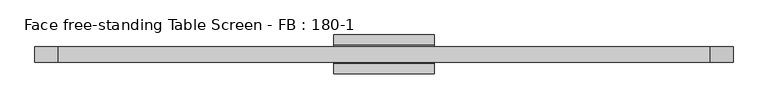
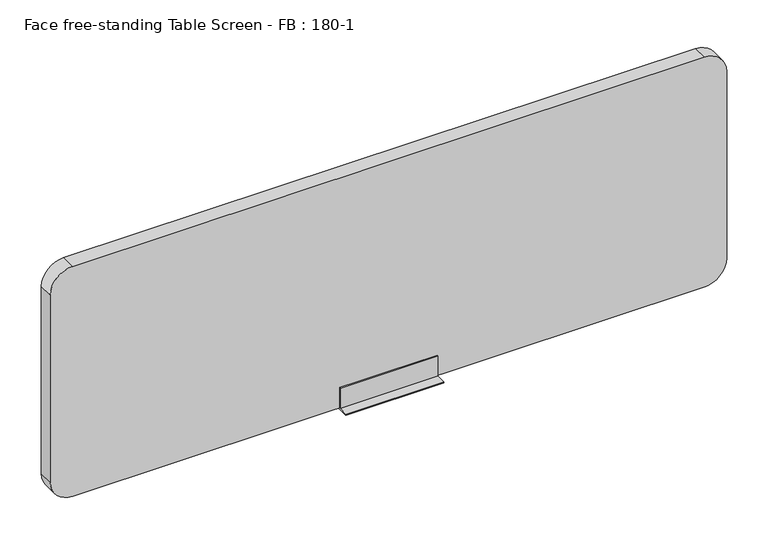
"""IFC4 building model written with IfcOpenShell, lengths in millimetres: furniture geometry, Face free-standing Table Screen - FB : 180-1."""

from ifc_helpers import new_model, si_unit, point, frame, frame_2d, origin, place, context, project, spatial, polyline, circle_curve, trimmed, segment, composite_curve, outline, extrude, source, transform, mapped, element, save


def face_free_standing_table_screen_fb_180_1_6931aeb2(model_context):
    return source(origin(), model_context, "Body", "SweptSolid", [
        extrude(outline(polyline([(-50.0, 3.0), (-22.999995, 3.0), (-23.0, 60.0), (-20.0, 60.0), (-20.0, 3.0), (20.0, 3.0), (20.0, 60.0), (23.0, 60.0), (22.999995, 3.0), (50.0, 3.0), (50.0, 0.0), (-50.0, 0.0), (-50.0, 3.0)])), frame((-130.0, 0.0, 0.0), z_axis=(1.0, 0.0, 0.0), x_axis=(0.0, 1.0, 0.0)), (0.0, 0.0, 1.0), 260.0),
        extrude(outline(composite_curve([segment(polyline([(650.0, 840.0), (650.0, -840.0)]), True, "CONTINUOUS"), segment(trimmed(circle_curve(frame_2d((590.0, -840.0)), 60.0), [point((650.0, -840.0))], [point((590.0, -900.0))], False, "CARTESIAN"), True, "CONTINUOUS"), segment(polyline([(590.0, -900.0), (63.0, -900.0)]), True, "CONTINUOUS"), segment(trimmed(circle_curve(frame_2d((63.0, -840.0)), 60.0), [point((63.0, -900.0))], [point((3.0, -840.0))], False, "CARTESIAN"), True, "CONTINUOUS"), segment(polyline([(3.0, -840.0), (3.0, 840.0)]), True, "CONTINUOUS"), segment(trimmed(circle_curve(frame_2d((63.0, 840.0)), 60.0), [point((3.0, 840.0))], [point((63.0, 900.0))], False, "CARTESIAN"), True, "CONTINUOUS"), segment(polyline([(63.0, 900.0), (590.0, 900.0)]), True, "CONTINUOUS"), segment(trimmed(circle_curve(frame_2d((590.0, 840.0)), 60.0), [point((590.0, 900.0))], [point((650.0, 840.0))], False, "CARTESIAN"), True, "CONTINUOUS")], self_intersect=False)), frame((0.0, -20.0, 0.0), z_axis=(0.0, 1.0, 0.0), x_axis=(0.0, 0.0, 1.0)), (0.0, 0.0, 1.0), 40.0),
    ])


if __name__ == "__main__":
    model = new_model("IFC4")
    model_context = context("Model", 3, world=origin())
    ifc_project = project(units=[si_unit("LENGTHUNIT", "METRE", prefix="MILLI")], contexts=[model_context])
    site = spatial("IfcSite", under=ifc_project)
    building = spatial("IfcBuilding", under=site)
    placement = place(None, origin())
    face_free_standing_table_screen_fb_180_1_shape = face_free_standing_table_screen_fb_180_1_6931aeb2(model_context)
    element("IfcFurniture", 1, ObjectType="Face free-standing Table Screen - FB : 180-1", at=placement, inside=building, context=model_context, shape_type="MappedRepresentation", body=[
        mapped(face_free_standing_table_screen_fb_180_1_shape, transform((0.0, 0.0, 0.0), x_axis=(1.0, 0.0, 0.0), y_axis=(0.0, 1.0, 0.0), z_axis=(0.0, 0.0, 1.0))),
    ])
    save(model, "model.ifc")
